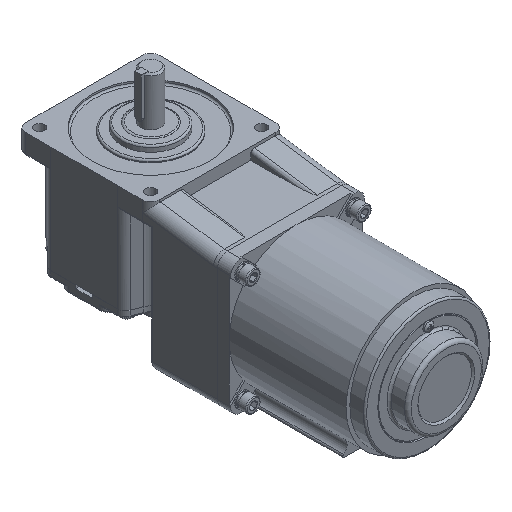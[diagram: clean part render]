
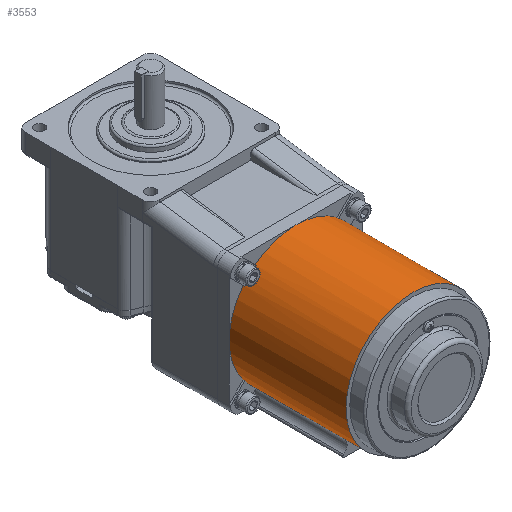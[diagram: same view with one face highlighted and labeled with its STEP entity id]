
A CAD part, isometric view. The second image highlights one B-rep face of the part: STEP entity #3553.
In plain terms, the highlighted cylindrical face has radius 40 mm (diameter 80 mm), a full revolution.
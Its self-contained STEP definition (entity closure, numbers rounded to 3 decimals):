
#956=LINE('',#15576,#1601);
#958=LINE('',#15586,#1603);
#1036=LINE('',#16041,#1681);
#1044=LINE('',#16064,#1689);
#1046=LINE('',#16069,#1691);
#1049=LINE('',#16075,#1694);
#1059=LINE('',#16102,#1704);
#1063=LINE('',#16109,#1708);
#1601=VECTOR('',#12550,1.);
#1603=VECTOR('',#12560,1.);
#1681=VECTOR('',#12822,1.);
#1689=VECTOR('',#12842,1.);
#1691=VECTOR('',#12846,1.);
#1694=VECTOR('',#12851,1.);
#1704=VECTOR('',#12873,1.);
#1708=VECTOR('',#12879,1.);
#3257=CYLINDRICAL_SURFACE('',#11421,40.);
#3553=ADVANCED_FACE('',(#4474,#4475),#3257,.T.);
#4474=FACE_BOUND('',#4876,.T.);
#4475=FACE_BOUND('',#4877,.T.);
#4876=EDGE_LOOP('',(#6050,#6051,#6052,#6053,#6054,#6055,#6056,#6057,#6058,
#6059,#6060,#6061,#6062,#6063,#6064,#6065,#6066,#6067,#6068,#6069));
#4877=EDGE_LOOP('',(#6070));
#6050=ORIENTED_EDGE('',*,*,#9296,.F.);
#6051=ORIENTED_EDGE('',*,*,#9295,.T.);
#6052=ORIENTED_EDGE('',*,*,#9158,.T.);
#6053=ORIENTED_EDGE('',*,*,#9379,.F.);
#6054=ORIENTED_EDGE('',*,*,#9321,.T.);
#6055=ORIENTED_EDGE('',*,*,#9376,.T.);
#6056=ORIENTED_EDGE('',*,*,#9374,.T.);
#6057=ORIENTED_EDGE('',*,*,#9338,.F.);
#6058=ORIENTED_EDGE('',*,*,#9327,.F.);
#6059=ORIENTED_EDGE('',*,*,#9334,.T.);
#6060=ORIENTED_EDGE('',*,*,#9375,.T.);
#6061=ORIENTED_EDGE('',*,*,#9377,.T.);
#6062=ORIENTED_EDGE('',*,*,#9316,.F.);
#6063=ORIENTED_EDGE('',*,*,#9310,.F.);
#6064=ORIENTED_EDGE('',*,*,#9318,.T.);
#6065=ORIENTED_EDGE('',*,*,#9373,.T.);
#6066=ORIENTED_EDGE('',*,*,#9378,.T.);
#6067=ORIENTED_EDGE('',*,*,#9305,.F.);
#6068=ORIENTED_EDGE('',*,*,#9298,.F.);
#6069=ORIENTED_EDGE('',*,*,#9163,.F.);
#6070=ORIENTED_EDGE('',*,*,#9362,.T.);
#8252=VERTEX_POINT('',#15555);
#8259=VERTEX_POINT('',#15575);
#8260=VERTEX_POINT('',#15577);
#8263=VERTEX_POINT('',#15585);
#8264=VERTEX_POINT('',#15587);
#8356=VERTEX_POINT('',#16029);
#8359=VERTEX_POINT('',#16038);
#8364=VERTEX_POINT('',#16051);
#8365=VERTEX_POINT('',#16053);
#8368=VERTEX_POINT('',#16061);
#8371=VERTEX_POINT('',#16068);
#8373=VERTEX_POINT('',#16074);
#8374=VERTEX_POINT('',#16076);
#8377=VERTEX_POINT('',#16087);
#8378=VERTEX_POINT('',#16088);
#8384=VERTEX_POINT('',#16101);
#8385=VERTEX_POINT('',#16106);
#8406=VERTEX_POINT('',#16169);
#8407=VERTEX_POINT('',#16172);
#8408=VERTEX_POINT('',#16181);
#8409=VERTEX_POINT('',#16185);
#9158=EDGE_CURVE('',#8260,#8259,#956,.T.);
#9163=EDGE_CURVE('',#8263,#8264,#958,.T.);
#9295=EDGE_CURVE('',#8252,#8260,#10520,.T.);
#9296=EDGE_CURVE('',#8252,#8263,#10521,.T.);
#9298=EDGE_CURVE('',#8264,#8356,#10523,.T.);
#9305=EDGE_CURVE('',#8356,#8359,#1036,.T.);
#9310=EDGE_CURVE('',#8364,#8365,#10526,.T.);
#9316=EDGE_CURVE('',#8365,#8368,#1044,.T.);
#9318=EDGE_CURVE('',#8364,#8371,#1046,.T.);
#9321=EDGE_CURVE('',#8374,#8373,#1049,.T.);
#9327=EDGE_CURVE('',#8377,#8378,#10529,.T.);
#9334=EDGE_CURVE('',#8377,#8384,#1059,.T.);
#9338=EDGE_CURVE('',#8378,#8385,#1063,.T.);
#9362=EDGE_CURVE('',#8406,#8406,#10548,.T.);
#9373=EDGE_CURVE('',#8371,#8409,#10549,.T.);
#9374=EDGE_CURVE('',#8407,#8385,#10550,.T.);
#9375=EDGE_CURVE('',#8384,#8408,#10551,.T.);
#9376=EDGE_CURVE('',#8373,#8407,#10552,.T.);
#9377=EDGE_CURVE('',#8408,#8368,#10553,.T.);
#9378=EDGE_CURVE('',#8409,#8359,#10554,.T.);
#9379=EDGE_CURVE('',#8374,#8259,#10555,.T.);
#10520=CIRCLE('',#11343,40.);
#10521=CIRCLE('',#11345,40.);
#10523=CIRCLE('',#11348,40.);
#10526=CIRCLE('',#11354,40.);
#10529=CIRCLE('',#11362,40.);
#10548=CIRCLE('',#11399,40.);
#10549=CIRCLE('',#11407,40.);
#10550=CIRCLE('',#11409,40.);
#10551=CIRCLE('',#11411,40.);
#10552=CIRCLE('',#11413,40.);
#10553=CIRCLE('',#11415,40.);
#10554=CIRCLE('',#11417,40.);
#10555=CIRCLE('',#11419,40.);
#11343=AXIS2_PLACEMENT_3D('',#16022,#12801,#12802);
#11345=AXIS2_PLACEMENT_3D('',#16024,#12805,#12806);
#11348=AXIS2_PLACEMENT_3D('',#16028,#12811,#12812);
#11354=AXIS2_PLACEMENT_3D('',#16052,#12832,#12833);
#11362=AXIS2_PLACEMENT_3D('',#16086,#12862,#12863);
#11399=AXIS2_PLACEMENT_3D('',#16168,#12952,#12953);
#11407=AXIS2_PLACEMENT_3D('',#16190,#12978,#12979);
#11409=AXIS2_PLACEMENT_3D('',#16192,#12982,#12983);
#11411=AXIS2_PLACEMENT_3D('',#16194,#12986,#12987);
#11413=AXIS2_PLACEMENT_3D('',#16196,#12990,#12991);
#11415=AXIS2_PLACEMENT_3D('',#16198,#12994,#12995);
#11417=AXIS2_PLACEMENT_3D('',#16200,#12998,#12999);
#11419=AXIS2_PLACEMENT_3D('',#16202,#13002,#13003);
#11421=AXIS2_PLACEMENT_3D('',#16204,#13006,#13007);
#12550=DIRECTION('',(0.,1.,0.));
#12560=DIRECTION('',(0.,1.,0.));
#12801=DIRECTION('',(0.,-1.,0.));
#12802=DIRECTION('',(-1.,0.,0.));
#12805=DIRECTION('',(0.,1.,0.));
#12806=DIRECTION('',(1.,0.,0.));
#12811=DIRECTION('',(0.,1.,0.));
#12812=DIRECTION('',(1.,0.,0.));
#12822=DIRECTION('',(0.,1.,0.));
#12832=DIRECTION('',(0.,1.,0.));
#12833=DIRECTION('',(1.,0.,0.));
#12842=DIRECTION('',(0.,1.,0.));
#12846=DIRECTION('',(0.,1.,0.));
#12851=DIRECTION('',(0.,1.,0.));
#12862=DIRECTION('',(0.,1.,0.));
#12863=DIRECTION('',(1.,0.,0.));
#12873=DIRECTION('',(0.,1.,0.));
#12879=DIRECTION('',(0.,1.,0.));
#12952=DIRECTION('',(0.,1.,0.));
#12953=DIRECTION('',(1.,0.,0.));
#12978=DIRECTION('',(0.,-1.,0.));
#12979=DIRECTION('',(1.,0.,0.));
#12982=DIRECTION('',(0.,-1.,0.));
#12983=DIRECTION('',(1.,0.,0.));
#12986=DIRECTION('',(0.,-1.,0.));
#12987=DIRECTION('',(1.,0.,0.));
#12990=DIRECTION('',(0.,-1.,0.));
#12991=DIRECTION('',(1.,0.,0.));
#12994=DIRECTION('',(0.,-1.,0.));
#12995=DIRECTION('',(1.,0.,0.));
#12998=DIRECTION('',(0.,-1.,0.));
#12999=DIRECTION('',(1.,0.,0.));
#13002=DIRECTION('',(0.,1.,0.));
#13003=DIRECTION('',(1.,0.,0.));
#13006=DIRECTION('',(0.,-1.,0.));
#13007=DIRECTION('',(1.,0.,0.));
#15555=CARTESIAN_POINT('',(0.,-142.,-87.));
#15575=CARTESIAN_POINT('',(26.14,-88.,-77.277));
#15576=CARTESIAN_POINT('',(26.14,-142.,-77.277));
#15577=CARTESIAN_POINT('',(26.14,-142.,-77.277));
#15585=CARTESIAN_POINT('',(-26.14,-142.,-77.277));
#15586=CARTESIAN_POINT('',(-26.14,-142.,-77.277));
#15587=CARTESIAN_POINT('',(-26.14,-88.,-77.277));
#16022=CARTESIAN_POINT('',(0.,-142.,-47.));
#16024=CARTESIAN_POINT('',(0.,-142.,-47.));
#16028=CARTESIAN_POINT('',(0.,-88.,-47.));
#16029=CARTESIAN_POINT('',(-31.598,-88.,-71.527));
#16038=CARTESIAN_POINT('',(-31.598,-87.,-71.527));
#16041=CARTESIAN_POINT('',(-31.598,-88.,-71.527));
#16051=CARTESIAN_POINT('',(-31.598,-88.,-22.473));
#16052=CARTESIAN_POINT('',(0.,-88.,-47.));
#16053=CARTESIAN_POINT('',(-24.527,-88.,-15.402));
#16061=CARTESIAN_POINT('',(-24.527,-87.,-15.402));
#16064=CARTESIAN_POINT('',(-24.527,-88.,-15.402));
#16068=CARTESIAN_POINT('',(-31.598,-87.,-22.473));
#16069=CARTESIAN_POINT('',(-31.598,-88.,-22.473));
#16074=CARTESIAN_POINT('',(31.598,-87.,-71.527));
#16075=CARTESIAN_POINT('',(31.598,-88.,-71.527));
#16076=CARTESIAN_POINT('',(31.598,-88.,-71.527));
#16086=CARTESIAN_POINT('',(0.,-88.,-47.));
#16087=CARTESIAN_POINT('',(24.527,-88.,-15.402));
#16088=CARTESIAN_POINT('',(31.598,-88.,-22.473));
#16101=CARTESIAN_POINT('',(24.527,-87.,-15.402));
#16102=CARTESIAN_POINT('',(24.527,-88.,-15.402));
#16106=CARTESIAN_POINT('',(31.598,-87.,-22.473));
#16109=CARTESIAN_POINT('',(31.598,-88.,-22.473));
#16168=CARTESIAN_POINT('',(0.,-157.,-47.));
#16169=CARTESIAN_POINT('',(40.,-157.,-47.));
#16172=CARTESIAN_POINT('',(40.,-87.,-47.));
#16181=CARTESIAN_POINT('',(0.,-87.,-7.));
#16185=CARTESIAN_POINT('',(-40.,-87.,-47.));
#16190=CARTESIAN_POINT('',(0.,-87.,-47.));
#16192=CARTESIAN_POINT('',(0.,-87.,-47.));
#16194=CARTESIAN_POINT('',(0.,-87.,-47.));
#16196=CARTESIAN_POINT('',(0.,-87.,-47.));
#16198=CARTESIAN_POINT('',(0.,-87.,-47.));
#16200=CARTESIAN_POINT('',(0.,-87.,-47.));
#16202=CARTESIAN_POINT('',(0.,-88.,-47.));
#16204=CARTESIAN_POINT('',(0.,-87.,-47.));
